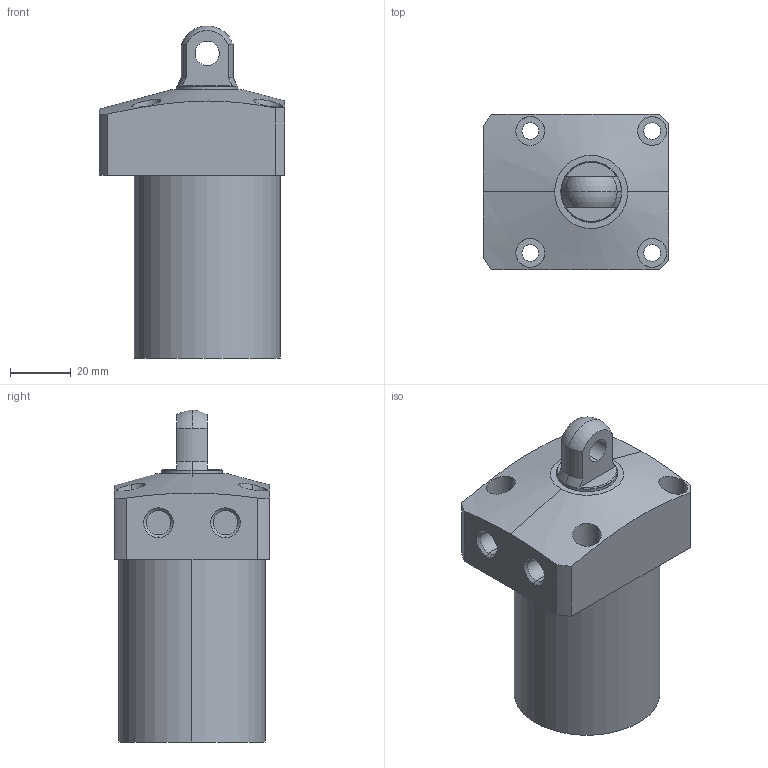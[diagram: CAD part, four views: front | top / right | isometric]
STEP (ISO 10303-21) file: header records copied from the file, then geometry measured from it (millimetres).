
FILE_DESCRIPTION (( 'STEP AP203' ), '1' );
FILE_NAME ('CLL-0480-CP-050.STEP', '2017-05-09T02:49:03', ( '' ), ( '' ), 'SwSTEP 2.0', 'SolidWorks 2015', '' );
FILE_SCHEMA (( 'CONFIG_CONTROL_DESIGN' ));
Length unit declared in the file: millimetre
Products named in the file (1): CLL-0480-CP-050
Bounding box: 61 x 51 x 109 mm (x, y, z)
Volume: 184243.9 mm3; surface area: 23735.7 mm2
Topology: 1 solids, 1 shells, 67 faces, 157 edges, 103 vertices
Faces by surface type: cylinder 35, plane 22, cone 8, sphere 2
Entity records: 2360 total; most frequent: CARTESIAN_POINT 682, DIRECTION 351, ORIENTED_EDGE 314, EDGE_CURVE 157, AXIS2_PLACEMENT_3D 146, VERTEX_POINT 103, EDGE_LOOP 88, CIRCLE 78
